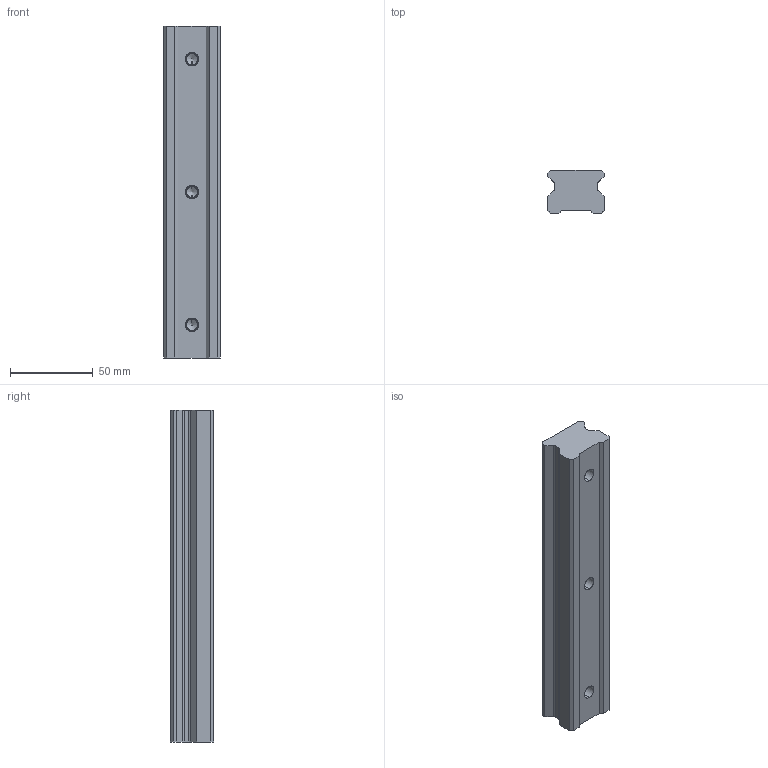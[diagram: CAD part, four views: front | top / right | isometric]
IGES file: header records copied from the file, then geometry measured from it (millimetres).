
Start section: SolidWorks IGES file using analytic representation for surfaces
Global section: file name: C:\Users\IanO\Desktop\Temp File\GENERAL\L1016_v2\L1016.RF35_v2\L1016.RF35_v2_20190612_IGES\L1016.RF35-0200.igs; native system: SolidWorks 2017; preprocessor: SolidWorks 2017; author: IanO; date: 190613.172442; units: millimetre
Bounding box: 34 x 26 x 200 mm (x, y, z)
Surface area: 27724.1 mm2 (no closed solid volume)
Topology: 0 solids, 0 shells, 47 faces, 528 edges, 522 vertices
Faces by surface type: bspline 25, revolution 22
